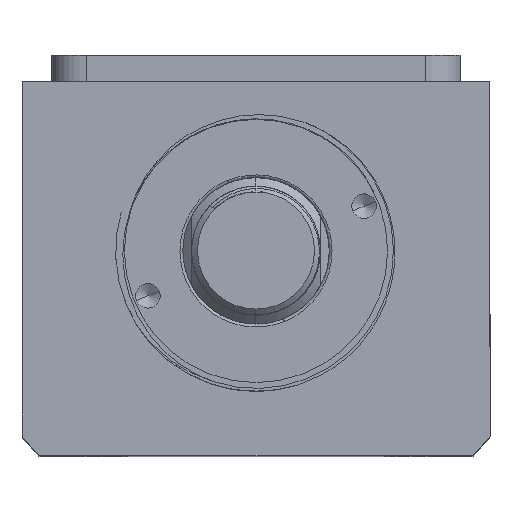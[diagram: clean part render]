
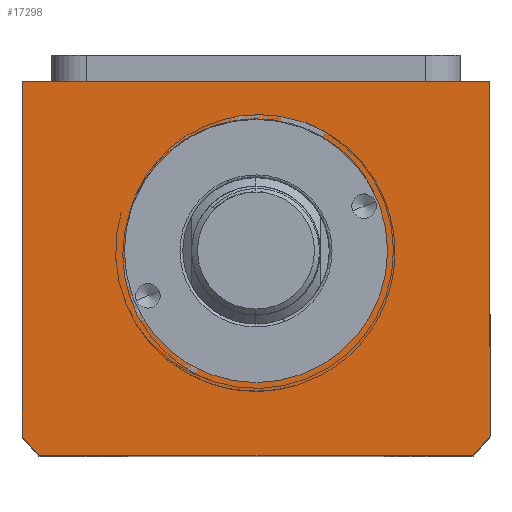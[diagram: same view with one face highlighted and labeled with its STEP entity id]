
A CAD part, top view. The second image highlights one B-rep face of the part: STEP entity #17298.
In plain terms, the highlighted planar face has unit normal (0, 0, 1).
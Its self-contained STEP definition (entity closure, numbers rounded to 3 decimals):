
#151 = VERTEX_POINT ( 'NONE', #14840 ) ;
#399 = LINE ( 'NONE', #13478, #7193 ) ;
#638 = ORIENTED_EDGE ( 'NONE', *, *, #16158, .F. ) ;
#776 = VERTEX_POINT ( 'NONE', #9991 ) ;
#1024 = VERTEX_POINT ( 'NONE', #1083 ) ;
#1083 = CARTESIAN_POINT ( 'NONE',  ( -37.094, -75.507, 90. ) ) ;
#1161 = VERTEX_POINT ( 'NONE', #5209 ) ;
#1229 = FACE_BOUND ( 'NONE', #12470, .T. ) ;
#1656 = DIRECTION ( 'NONE',  ( 0., 0., 1. ) ) ;
#1686 = CIRCLE ( 'NONE', #8360, 22.5 ) ;
#2046 = CARTESIAN_POINT ( 'NONE',  ( 40., -11.507, 90. ) ) ;
#2096 = LINE ( 'NONE', #10080, #5265 ) ;
#2629 = CARTESIAN_POINT ( 'NONE',  ( 40., -72.145, 90. ) ) ;
#3182 = AXIS2_PLACEMENT_3D ( 'NONE', #6676, #16180, #8069 ) ;
#4819 = FACE_OUTER_BOUND ( 'NONE', #17385, .T. ) ;
#5085 = VERTEX_POINT ( 'NONE', #14907 ) ;
#5209 = CARTESIAN_POINT ( 'NONE',  ( 37.094, -75.507, 90. ) ) ;
#5265 = VECTOR ( 'NONE', #6045, 1000. ) ;
#5792 = CARTESIAN_POINT ( 'NONE',  ( 0., -40.507, 90. ) ) ;
#5831 = AXIS2_PLACEMENT_3D ( 'NONE', #16175, #8064, #17528 ) ;
#6045 = DIRECTION ( 'NONE',  ( 0., 1., 0. ) ) ;
#6503 = ORIENTED_EDGE ( 'NONE', *, *, #15482, .T. ) ;
#6662 = CARTESIAN_POINT ( 'NONE',  ( 0., -40.507, 90. ) ) ;
#6676 = CARTESIAN_POINT ( 'NONE',  ( 0., -40.507, 90. ) ) ;
#6883 = ORIENTED_EDGE ( 'NONE', *, *, #12502, .T. ) ;
#7085 = DIRECTION ( 'NONE',  ( -1., 0., 0. ) ) ;
#7177 = DIRECTION ( 'NONE',  ( 1., 0., 0. ) ) ;
#7193 = VECTOR ( 'NONE', #10766, 1000. ) ;
#7410 = ORIENTED_EDGE ( 'NONE', *, *, #9348, .T. ) ;
#7970 = VERTEX_POINT ( 'NONE', #17549 ) ;
#8054 = DIRECTION ( 'NONE',  ( 1., 0., 0. ) ) ;
#8064 = DIRECTION ( 'NONE',  ( 0., 0., 1. ) ) ;
#8069 = DIRECTION ( 'NONE',  ( 1., 0., 0. ) ) ;
#8360 = AXIS2_PLACEMENT_3D ( 'NONE', #5792, #15299, #7177 ) ;
#9348 = EDGE_CURVE ( 'NONE', #17191, #16343, #2096, .T. ) ;
#9535 = LINE ( 'NONE', #16571, #12714 ) ;
#9794 = PLANE ( 'NONE',  #15502 ) ;
#9991 = CARTESIAN_POINT ( 'NONE',  ( -22.5, -40.507, 90. ) ) ;
#10080 = CARTESIAN_POINT ( 'NONE',  ( 40., -11.507, 90. ) ) ;
#10124 = CARTESIAN_POINT ( 'NONE',  ( -40., -75.507, 90. ) ) ;
#10766 = DIRECTION ( 'NONE',  ( 0., -1., 0. ) ) ;
#10878 = EDGE_CURVE ( 'NONE', #776, #5085, #13524, .T. ) ;
#11108 = CIRCLE ( 'NONE', #14074, 51. ) ;
#11146 = DIRECTION ( 'NONE',  ( 1., 0., 0. ) ) ;
#11491 = DIRECTION ( 'NONE',  ( 1., 0., 0. ) ) ;
#12102 = EDGE_CURVE ( 'NONE', #1024, #1161, #15842, .T. ) ;
#12235 = VECTOR ( 'NONE', #11491, 1000. ) ;
#12470 = EDGE_LOOP ( 'NONE', ( #638, #17580 ) ) ;
#12502 = EDGE_CURVE ( 'NONE', #1161, #17191, #11108, .T. ) ;
#12714 = VECTOR ( 'NONE', #7085, 1000. ) ;
#13243 = ORIENTED_EDGE ( 'NONE', *, *, #17574, .T. ) ;
#13478 = CARTESIAN_POINT ( 'NONE',  ( -40., -11.507, 90. ) ) ;
#13524 = CIRCLE ( 'NONE', #5831, 22.5 ) ;
#13922 = ORIENTED_EDGE ( 'NONE', *, *, #16658, .T. ) ;
#14074 = AXIS2_PLACEMENT_3D ( 'NONE', #6662, #16167, #8054 ) ;
#14840 = CARTESIAN_POINT ( 'NONE',  ( -40., -11.507, 90. ) ) ;
#14907 = CARTESIAN_POINT ( 'NONE',  ( 22.5, -40.507, 90. ) ) ;
#15118 = CARTESIAN_POINT ( 'NONE',  ( 0., 0., 90. ) ) ;
#15299 = DIRECTION ( 'NONE',  ( 0., 0., 1. ) ) ;
#15482 = EDGE_CURVE ( 'NONE', #7970, #1024, #15512, .T. ) ;
#15502 = AXIS2_PLACEMENT_3D ( 'NONE', #15118, #1656, #11146 ) ;
#15512 = CIRCLE ( 'NONE', #3182, 51. ) ;
#15842 = LINE ( 'NONE', #10124, #12235 ) ;
#16158 = EDGE_CURVE ( 'NONE', #5085, #776, #1686, .T. ) ;
#16167 = DIRECTION ( 'NONE',  ( 0., 0., 1. ) ) ;
#16175 = CARTESIAN_POINT ( 'NONE',  ( 0., -40.507, 90. ) ) ;
#16180 = DIRECTION ( 'NONE',  ( 0., 0., 1. ) ) ;
#16343 = VERTEX_POINT ( 'NONE', #2046 ) ;
#16571 = CARTESIAN_POINT ( 'NONE',  ( -40., -11.507, 90. ) ) ;
#16658 = EDGE_CURVE ( 'NONE', #16343, #151, #9535, .T. ) ;
#16778 = ORIENTED_EDGE ( 'NONE', *, *, #12102, .T. ) ;
#17191 = VERTEX_POINT ( 'NONE', #2629 ) ;
#17298 = ADVANCED_FACE ( 'NONE', ( #1229, #4819 ), #9794, .T. ) ;
#17385 = EDGE_LOOP ( 'NONE', ( #13243, #6503, #16778, #6883, #7410, #13922 ) ) ;
#17528 = DIRECTION ( 'NONE',  ( 1., 0., 0. ) ) ;
#17549 = CARTESIAN_POINT ( 'NONE',  ( -40., -72.145, 90. ) ) ;
#17574 = EDGE_CURVE ( 'NONE', #151, #7970, #399, .T. ) ;
#17580 = ORIENTED_EDGE ( 'NONE', *, *, #10878, .F. ) ;
